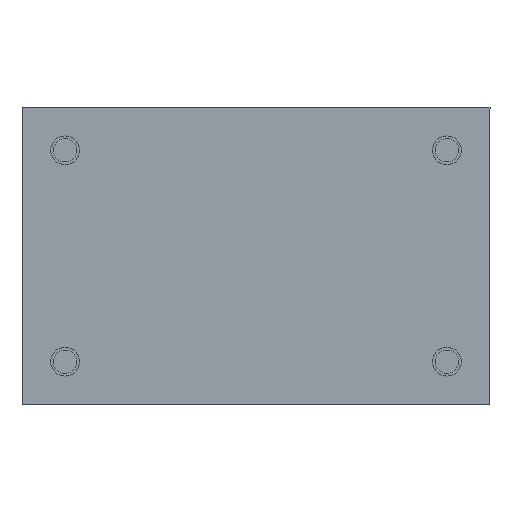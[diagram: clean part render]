
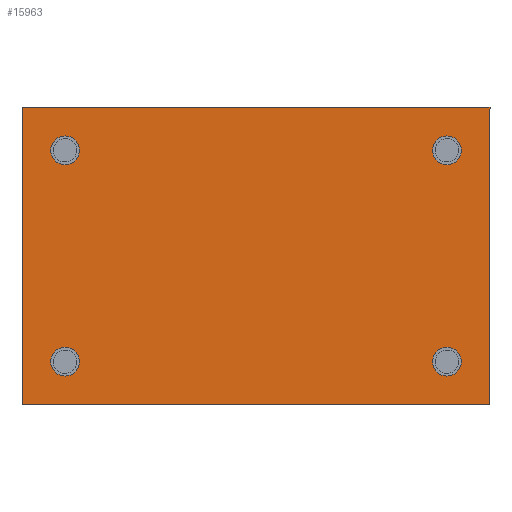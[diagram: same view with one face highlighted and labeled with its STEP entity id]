
A CAD part, front view. The second image highlights one B-rep face of the part: STEP entity #15963.
In plain terms, the highlighted planar face has unit normal (0, -1, 0).
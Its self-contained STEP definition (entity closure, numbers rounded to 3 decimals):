
#99 = EDGE_CURVE ( 'NONE', #15561, #19405, #6181, .T. ) ;
#381 = ORIENTED_EDGE ( 'NONE', *, *, #23655, .F. ) ;
#691 = AXIS2_PLACEMENT_3D ( 'NONE', #1558, #7681, #3911 ) ;
#857 = VERTEX_POINT ( 'NONE', #19806 ) ;
#943 = VERTEX_POINT ( 'NONE', #12925 ) ;
#1071 = ORIENTED_EDGE ( 'NONE', *, *, #2367, .F. ) ;
#1184 = CARTESIAN_POINT ( 'NONE',  ( -1.172, 13.272, 60.844 ) ) ;
#1260 = ORIENTED_EDGE ( 'NONE', *, *, #17228, .F. ) ;
#1359 = DIRECTION ( 'NONE',  ( 0., -1., 0. ) ) ;
#1361 = EDGE_CURVE ( 'NONE', #8706, #8608, #5976, .T. ) ;
#1558 = CARTESIAN_POINT ( 'NONE',  ( 46.072, 13.272, 34.682 ) ) ;
#1594 = DIRECTION ( 'NONE',  ( -1., 0., 0. ) ) ;
#1603 = CIRCLE ( 'NONE', #6410, 1.778 ) ;
#1785 = AXIS2_PLACEMENT_3D ( 'NONE', #15161, #7757, #17141 ) ;
#1788 = DIRECTION ( 'NONE',  ( 0., 0., 1. ) ) ;
#1801 = CARTESIAN_POINT ( 'NONE',  ( 0.606, 13.272, 34.682 ) ) ;
#1870 = CARTESIAN_POINT ( 'NONE',  ( 46.072, 13.272, 34.682 ) ) ;
#1874 = CARTESIAN_POINT ( 'NONE',  ( -1.172, 13.272, 34.682 ) ) ;
#2172 = EDGE_CURVE ( 'NONE', #19405, #15561, #1603, .T. ) ;
#2301 = CIRCLE ( 'NONE', #18692, 1.778 ) ;
#2367 = EDGE_CURVE ( 'NONE', #8608, #8706, #15991, .T. ) ;
#2867 = FACE_BOUND ( 'NONE', #16553, .T. ) ;
#2907 = VERTEX_POINT ( 'NONE', #23972 ) ;
#3143 = CARTESIAN_POINT ( 'NONE',  ( -2.95, 13.272, 60.844 ) ) ;
#3911 = DIRECTION ( 'NONE',  ( 1., 0., 0. ) ) ;
#4309 = CARTESIAN_POINT ( 'NONE',  ( 51.406, 13.272, 66.178 ) ) ;
#4636 = EDGE_CURVE ( 'NONE', #16824, #22894, #21210, .T. ) ;
#4761 = ORIENTED_EDGE ( 'NONE', *, *, #4636, .F. ) ;
#4859 = ORIENTED_EDGE ( 'NONE', *, *, #99, .F. ) ;
#5055 = CARTESIAN_POINT ( 'NONE',  ( -6.506, 13.272, 66.178 ) ) ;
#5087 = AXIS2_PLACEMENT_3D ( 'NONE', #1870, #17138, #7627 ) ;
#5194 = EDGE_CURVE ( 'NONE', #857, #943, #9115, .T. ) ;
#5303 = ORIENTED_EDGE ( 'NONE', *, *, #1361, .F. ) ;
#5332 = ORIENTED_EDGE ( 'NONE', *, *, #11229, .F. ) ;
#5976 = CIRCLE ( 'NONE', #17951, 1.778 ) ;
#6181 = CIRCLE ( 'NONE', #1785, 1.778 ) ;
#6410 = AXIS2_PLACEMENT_3D ( 'NONE', #1874, #9538, #17143 ) ;
#6611 = EDGE_CURVE ( 'NONE', #16585, #8837, #14834, .T. ) ;
#6871 = PLANE ( 'NONE',  #23638 ) ;
#7110 = CIRCLE ( 'NONE', #691, 1.778 ) ;
#7482 = DIRECTION ( 'NONE',  ( 0., 1., 0. ) ) ;
#7627 = DIRECTION ( 'NONE',  ( 1., 0., 0. ) ) ;
#7681 = DIRECTION ( 'NONE',  ( 0., -1., 0. ) ) ;
#7757 = DIRECTION ( 'NONE',  ( 0., -1., 0. ) ) ;
#8123 = EDGE_CURVE ( 'NONE', #8837, #16824, #18939, .T. ) ;
#8406 = AXIS2_PLACEMENT_3D ( 'NONE', #1184, #18060, #16437 ) ;
#8608 = VERTEX_POINT ( 'NONE', #24141 ) ;
#8640 = DIRECTION ( 'NONE',  ( 1., 0., 0. ) ) ;
#8706 = VERTEX_POINT ( 'NONE', #10384 ) ;
#8837 = VERTEX_POINT ( 'NONE', #17573 ) ;
#9024 = DIRECTION ( 'NONE',  ( 0., -1., 0. ) ) ;
#9038 = DIRECTION ( 'NONE',  ( 1., 0., 0. ) ) ;
#9115 = CIRCLE ( 'NONE', #5087, 1.778 ) ;
#9538 = DIRECTION ( 'NONE',  ( 0., -1., 0. ) ) ;
#10384 = CARTESIAN_POINT ( 'NONE',  ( 47.85, 13.272, 60.844 ) ) ;
#10388 = ORIENTED_EDGE ( 'NONE', *, *, #2172, .F. ) ;
#10642 = FACE_BOUND ( 'NONE', #14124, .T. ) ;
#11229 = EDGE_CURVE ( 'NONE', #943, #857, #7110, .T. ) ;
#11487 = VECTOR ( 'NONE', #23227, 1000. ) ;
#11979 = CIRCLE ( 'NONE', #8406, 1.778 ) ;
#12206 = VECTOR ( 'NONE', #1788, 1000. ) ;
#12925 = CARTESIAN_POINT ( 'NONE',  ( 47.85, 13.272, 34.682 ) ) ;
#13004 = CARTESIAN_POINT ( 'NONE',  ( 51.406, 13.272, 66.178 ) ) ;
#13902 = EDGE_CURVE ( 'NONE', #22894, #16585, #13932, .T. ) ;
#13932 = LINE ( 'NONE', #17529, #20736 ) ;
#14006 = CARTESIAN_POINT ( 'NONE',  ( 46.072, 13.272, 60.844 ) ) ;
#14124 = EDGE_LOOP ( 'NONE', ( #5332, #19043 ) ) ;
#14279 = CARTESIAN_POINT ( 'NONE',  ( -1.172, 13.272, 60.844 ) ) ;
#14834 = LINE ( 'NONE', #23852, #16550 ) ;
#14948 = ORIENTED_EDGE ( 'NONE', *, *, #6611, .F. ) ;
#15161 = CARTESIAN_POINT ( 'NONE',  ( -1.172, 13.272, 34.682 ) ) ;
#15561 = VERTEX_POINT ( 'NONE', #22278 ) ;
#15594 = CARTESIAN_POINT ( 'NONE',  ( 51.406, 13.272, 66.178 ) ) ;
#15963 = ADVANCED_FACE ( 'NONE', ( #16490, #10642, #24167, #2867, #16377 ), #6871, .F. ) ;
#15991 = CIRCLE ( 'NONE', #22386, 1.778 ) ;
#16377 = FACE_OUTER_BOUND ( 'NONE', #17646, .T. ) ;
#16437 = DIRECTION ( 'NONE',  ( 1., 0., 0. ) ) ;
#16490 = FACE_BOUND ( 'NONE', #24319, .T. ) ;
#16550 = VECTOR ( 'NONE', #22069, 1000. ) ;
#16553 = EDGE_LOOP ( 'NONE', ( #1260, #381 ) ) ;
#16585 = VERTEX_POINT ( 'NONE', #24803 ) ;
#16824 = VERTEX_POINT ( 'NONE', #18998 ) ;
#17138 = DIRECTION ( 'NONE',  ( 0., -1., 0. ) ) ;
#17141 = DIRECTION ( 'NONE',  ( 1., 0., 0. ) ) ;
#17143 = DIRECTION ( 'NONE',  ( 1., 0., 0. ) ) ;
#17228 = EDGE_CURVE ( 'NONE', #2907, #23509, #11979, .T. ) ;
#17529 = CARTESIAN_POINT ( 'NONE',  ( 51.406, 13.272, 66.178 ) ) ;
#17573 = CARTESIAN_POINT ( 'NONE',  ( -6.506, 13.272, 29.348 ) ) ;
#17646 = EDGE_LOOP ( 'NONE', ( #20846, #4761, #24746, #14948 ) ) ;
#17723 = DIRECTION ( 'NONE',  ( 0., -1., 0. ) ) ;
#17951 = AXIS2_PLACEMENT_3D ( 'NONE', #14006, #17723, #23768 ) ;
#18060 = DIRECTION ( 'NONE',  ( 0., -1., 0. ) ) ;
#18497 = CARTESIAN_POINT ( 'NONE',  ( 46.072, 13.272, 60.844 ) ) ;
#18692 = AXIS2_PLACEMENT_3D ( 'NONE', #14279, #9024, #8640 ) ;
#18939 = LINE ( 'NONE', #5055, #12206 ) ;
#18998 = CARTESIAN_POINT ( 'NONE',  ( -6.506, 13.272, 66.178 ) ) ;
#19043 = ORIENTED_EDGE ( 'NONE', *, *, #5194, .F. ) ;
#19405 = VERTEX_POINT ( 'NONE', #1801 ) ;
#19675 = DIRECTION ( 'NONE',  ( 0., 0., -1. ) ) ;
#19806 = CARTESIAN_POINT ( 'NONE',  ( 44.294, 13.272, 34.682 ) ) ;
#20736 = VECTOR ( 'NONE', #19675, 1000. ) ;
#20846 = ORIENTED_EDGE ( 'NONE', *, *, #13902, .F. ) ;
#21210 = LINE ( 'NONE', #15594, #11487 ) ;
#21322 = EDGE_LOOP ( 'NONE', ( #10388, #4859 ) ) ;
#22069 = DIRECTION ( 'NONE',  ( -1., 0., 0. ) ) ;
#22278 = CARTESIAN_POINT ( 'NONE',  ( -2.95, 13.272, 34.682 ) ) ;
#22386 = AXIS2_PLACEMENT_3D ( 'NONE', #18497, #1359, #9038 ) ;
#22894 = VERTEX_POINT ( 'NONE', #4309 ) ;
#23227 = DIRECTION ( 'NONE',  ( 1., 0., 0. ) ) ;
#23509 = VERTEX_POINT ( 'NONE', #3143 ) ;
#23638 = AXIS2_PLACEMENT_3D ( 'NONE', #13004, #7482, #1594 ) ;
#23655 = EDGE_CURVE ( 'NONE', #23509, #2907, #2301, .T. ) ;
#23768 = DIRECTION ( 'NONE',  ( 1., 0., 0. ) ) ;
#23852 = CARTESIAN_POINT ( 'NONE',  ( 51.406, 13.272, 29.348 ) ) ;
#23972 = CARTESIAN_POINT ( 'NONE',  ( 0.606, 13.272, 60.844 ) ) ;
#24141 = CARTESIAN_POINT ( 'NONE',  ( 44.294, 13.272, 60.844 ) ) ;
#24167 = FACE_BOUND ( 'NONE', #21322, .T. ) ;
#24319 = EDGE_LOOP ( 'NONE', ( #5303, #1071 ) ) ;
#24746 = ORIENTED_EDGE ( 'NONE', *, *, #8123, .F. ) ;
#24803 = CARTESIAN_POINT ( 'NONE',  ( 51.406, 13.272, 29.348 ) ) ;
